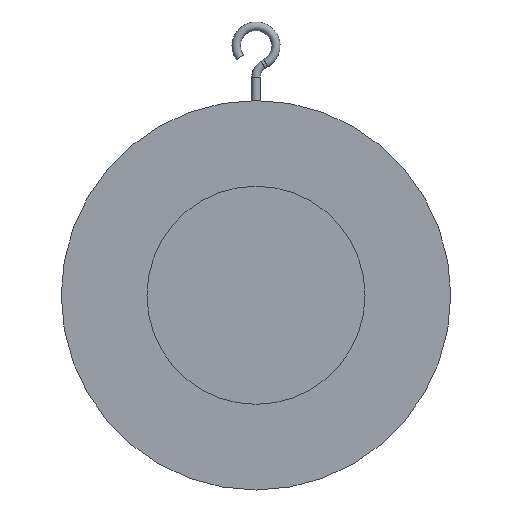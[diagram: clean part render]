
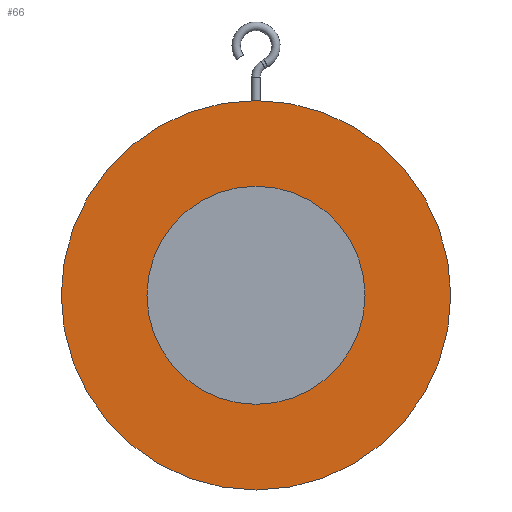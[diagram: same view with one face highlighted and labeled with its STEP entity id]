
A CAD part, front view. The second image highlights one B-rep face of the part: STEP entity #66.
In plain terms, the highlighted planar face has unit normal (0, -1, 0).
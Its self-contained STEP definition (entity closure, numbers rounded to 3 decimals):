
#66=ADVANCED_FACE('',(#203,#205),#207,.T.);
#203=FACE_BOUND('',#204,.T.);
#204=EDGE_LOOP('',(#315));
#205=FACE_BOUND('',#206,.T.);
#206=EDGE_LOOP('',(#316));
#207=PLANE('',#208);
#208=AXIS2_PLACEMENT_3D('',#209,#210,#211);
#209=CARTESIAN_POINT('',(0.,-11.,0.));
#210=DIRECTION('',(0.,-1.,0.));
#211=DIRECTION('',(0.,0.,1.));
#315=ORIENTED_EDGE('',*,*,#356,.F.);
#316=ORIENTED_EDGE('',*,*,#358,.T.);
#356=EDGE_CURVE('',#383,#383,#384,.T.);
#358=EDGE_CURVE('',#387,#387,#388,.T.);
#383=VERTEX_POINT('',#620);
#384=CIRCLE('',#621,137.5);
#387=VERTEX_POINT('',#630);
#388=CIRCLE('',#631,77.);
#620=CARTESIAN_POINT('',(0.,-11.,137.5));
#621=AXIS2_PLACEMENT_3D('',#622,#623,#624);
#622=CARTESIAN_POINT('',(0.,-11.,0.));
#623=DIRECTION('',(0.,1.,0.));
#624=DIRECTION('',(0.,0.,1.));
#630=CARTESIAN_POINT('',(0.,-11.,77.));
#631=AXIS2_PLACEMENT_3D('',#632,#633,#634);
#632=CARTESIAN_POINT('',(0.,-11.,0.));
#633=DIRECTION('',(0.,1.,0.));
#634=DIRECTION('',(0.,0.,1.));
